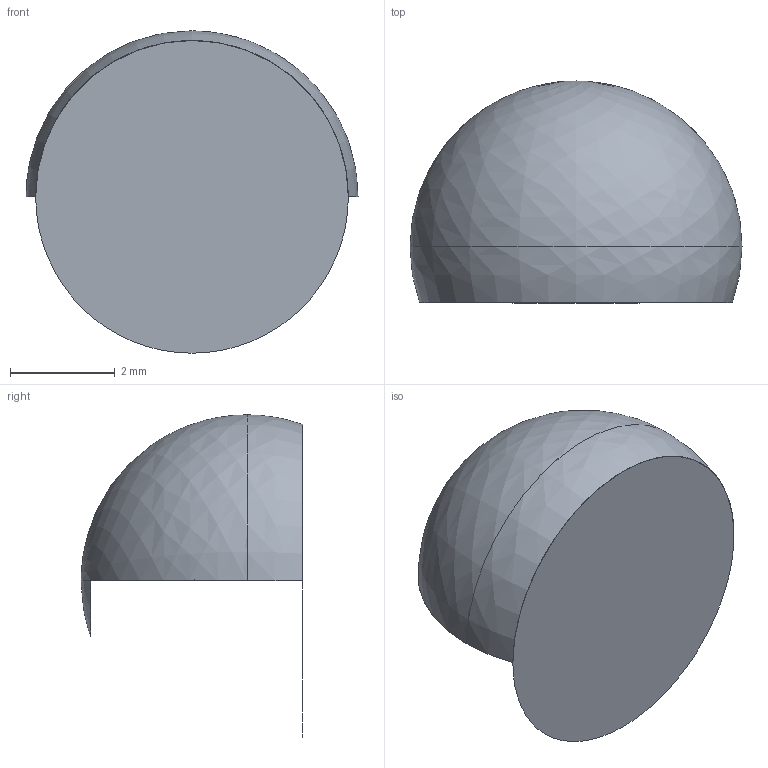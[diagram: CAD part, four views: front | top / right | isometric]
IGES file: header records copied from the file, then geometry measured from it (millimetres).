
Start section: SolidWorks IGES file using analytic representation for surfaces
Global section: file name: D:\Solid_parts\MECHeDESIGN\Bal-Tec\Catalog 105-A\Distribution\IGES\250-TB.IGS; native system: SolidWorks 2005 by SolidWorks Corporation; preprocessor: SolidWorks 2005 by SolidWorks Corporation; author: rvillegas; date: 061205.185339; units: inch
Bounding box: 6.35 x 4.24 x 6.17 mm (x, y, z)
Surface area: 104 mm2 (no closed solid volume)
Topology: 0 solids, 0 shells, 3 faces, 40 edges, 39 vertices
Faces by surface type: revolution 2, bspline 1
